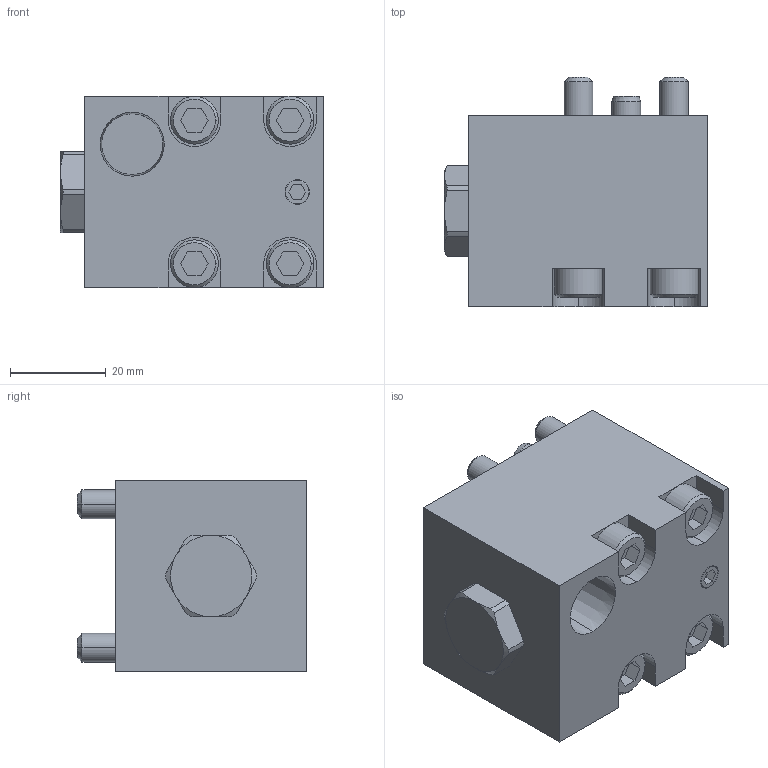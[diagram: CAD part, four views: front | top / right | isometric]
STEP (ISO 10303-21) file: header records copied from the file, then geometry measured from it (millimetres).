
FILE_DESCRIPTION (( 'STEP AP203' ), '1' );
FILE_NAME ('JKA0x0-0S_rev1.step', '2010-03-15T09:08:30', ( ' ' ), ( ' ' ), 'SwSTEP 2.0', 'SolidWorks 2009', '' );
FILE_SCHEMA (( 'CONFIG_CONTROL_DESIGN' ));
Length unit declared in the file: millimetre
Products named in the file (4): JKA0x0-0S_rev1.sldasm-Part-1; JKA0x0-0S_rev1.sldasm-Part-2; JKA0x0-0S_rev1.sldasm-Part-3; JKA0x0-0S_rev1
Assembly tree (3 placements, depth 2):
  JKA0x0-0S_rev1
    JKA0x0-0S_rev1.sldasm-Part-2
    JKA0x0-0S_rev1.sldasm-Part-1
    JKA0x0-0S_rev1.sldasm-Part-3
Bounding box: 55 x 48 x 40 mm (x, y, z)
Volume: 78398.1 mm3; surface area: 15039.8 mm2
Topology: 3 solids, 5 shells, 169 faces, 402 edges, 258 vertices
Faces by surface type: plane 87, cylinder 46, cone 36
Entity records: 5336 total; most frequent: CARTESIAN_POINT 899, DIRECTION 882, ORIENTED_EDGE 804, EDGE_CURVE 402, AXIS2_PLACEMENT_3D 317, VERTEX_POINT 258, VECTOR 248, LINE 248
